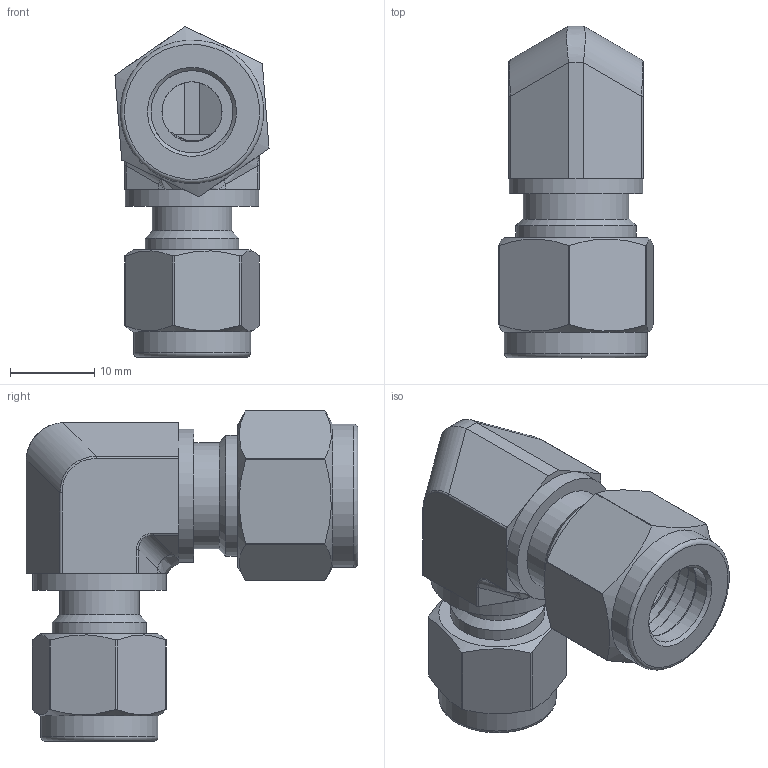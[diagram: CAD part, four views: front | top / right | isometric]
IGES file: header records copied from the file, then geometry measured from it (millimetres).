
Global section: file name: No Iges File Name specified; native system: Autodesk Inventor 2012; preprocessor: AutoDesk Inventor Iges Exporter R2012; author: 硅己绕,,1; organization: 1; date: 20150430.113052; units: millimetre
Bounding box: 18.24 x 39.28 x 39.09 mm (x, y, z)
Volume: 8424.4 mm3; surface area: 6239.4 mm2
Topology: 3 solids, 3 shells, 117 faces, 265 edges, 163 vertices
Faces by surface type: plane 38, cylinder 36, revolution 23, cone 8, bspline 8, torus 4
Full cylindrical faces by diameter (mm): 9.4 x2, 11.112 x1, 12.5 x1, 12.55 x1, 13.9 x1, 14.28 x1, 15.8 x2, 17 x1
